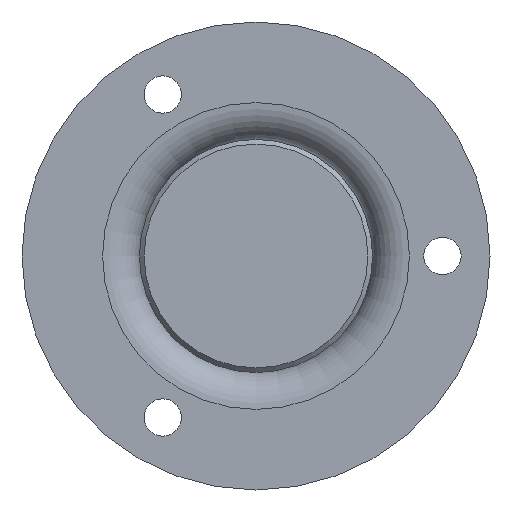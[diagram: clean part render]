
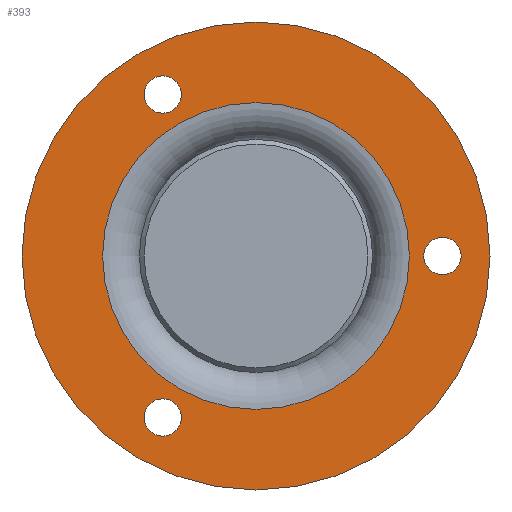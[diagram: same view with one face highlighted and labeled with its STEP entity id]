
A CAD part, front view. The second image highlights one B-rep face of the part: STEP entity #393.
In plain terms, the highlighted planar face has unit normal (0, -1, 0).
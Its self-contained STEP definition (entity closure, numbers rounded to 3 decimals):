
#55=PLANE('',#444);
#72=FACE_BOUND('',#153,.T.);
#73=FACE_BOUND('',#154,.T.);
#74=FACE_BOUND('',#155,.T.);
#75=FACE_BOUND('',#156,.T.);
#108=FACE_OUTER_BOUND('',#152,.T.);
#152=EDGE_LOOP('',(#327));
#153=EDGE_LOOP('',(#328));
#154=EDGE_LOOP('',(#329));
#155=EDGE_LOOP('',(#330));
#156=EDGE_LOOP('',(#331));
#211=CIRCLE('',#442,16.45);
#213=CIRCLE('',#445,25.1);
#214=CIRCLE('',#446,2.);
#215=CIRCLE('',#447,2.);
#216=CIRCLE('',#448,2.);
#246=VERTEX_POINT('',#679);
#248=VERTEX_POINT('',#684);
#249=VERTEX_POINT('',#686);
#250=VERTEX_POINT('',#688);
#251=VERTEX_POINT('',#690);
#282=EDGE_CURVE('',#246,#246,#211,.T.);
#284=EDGE_CURVE('',#248,#248,#213,.T.);
#285=EDGE_CURVE('',#249,#249,#214,.T.);
#286=EDGE_CURVE('',#250,#250,#215,.T.);
#287=EDGE_CURVE('',#251,#251,#216,.T.);
#327=ORIENTED_EDGE('',*,*,#284,.T.);
#328=ORIENTED_EDGE('',*,*,#285,.T.);
#329=ORIENTED_EDGE('',*,*,#286,.T.);
#330=ORIENTED_EDGE('',*,*,#287,.T.);
#331=ORIENTED_EDGE('',*,*,#282,.F.);
#393=ADVANCED_FACE('',(#108,#72,#73,#74,#75),#55,.T.);
#442=AXIS2_PLACEMENT_3D('',#680,#541,#542);
#444=AXIS2_PLACEMENT_3D('',#683,#545,#546);
#445=AXIS2_PLACEMENT_3D('',#685,#547,#548);
#446=AXIS2_PLACEMENT_3D('',#687,#549,#550);
#447=AXIS2_PLACEMENT_3D('',#689,#551,#552);
#448=AXIS2_PLACEMENT_3D('',#691,#553,#554);
#541=DIRECTION('center_axis',(0.,-1.,0.));
#542=DIRECTION('ref_axis',(-1.,0.,0.));
#545=DIRECTION('center_axis',(0.,-1.,0.));
#546=DIRECTION('ref_axis',(0.,0.,-1.));
#547=DIRECTION('center_axis',(0.,-1.,0.));
#548=DIRECTION('ref_axis',(1.,0.,0.));
#549=DIRECTION('center_axis',(0.,1.,0.));
#550=DIRECTION('ref_axis',(1.,0.,0.));
#551=DIRECTION('center_axis',(0.,1.,0.));
#552=DIRECTION('ref_axis',(1.,0.,0.));
#553=DIRECTION('center_axis',(0.,1.,0.));
#554=DIRECTION('ref_axis',(1.,0.,0.));
#679=CARTESIAN_POINT('',(16.45,0.,0.));
#680=CARTESIAN_POINT('Origin',(0.,0.,0.));
#683=CARTESIAN_POINT('Origin',(12.45,0.,0.));
#684=CARTESIAN_POINT('',(25.1,0.,0.));
#685=CARTESIAN_POINT('Origin',(0.,0.,0.));
#686=CARTESIAN_POINT('',(-12.,0.,17.321));
#687=CARTESIAN_POINT('Origin',(-10.,0.,17.321));
#688=CARTESIAN_POINT('',(18.,0.,0.));
#689=CARTESIAN_POINT('Origin',(20.,0.,0.));
#690=CARTESIAN_POINT('',(-12.,0.,-17.321));
#691=CARTESIAN_POINT('Origin',(-10.,0.,-17.321));
